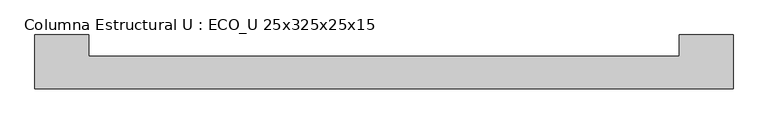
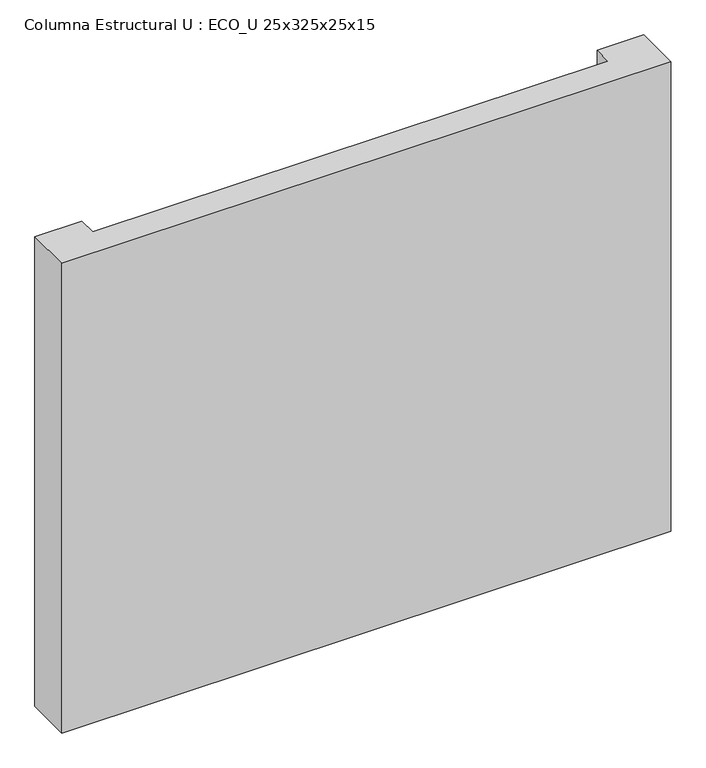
"""IFC4 building model written with IfcOpenShell, lengths in millimetres: column geometry, Columna Estructural U : ECO_U 25x325x25x15."""

from ifc_helpers import new_model, si_unit, frame, origin, place, context, project, spatial, polyline, outline, extrude, source, transform, mapped, element, save


def columna_estructural_u_eco_u_25x325x25x15_0f70cbe8(model_context):
    return source(origin(), model_context, "Body", "SweptSolid", [
        extrude(outline(polyline([(1375.0, 75.0), (1375.0, 175.0), (1625.0, 175.0), (1625.0, -75.0), (-1625.0, -75.0), (-1625.0, 175.0), (-1375.0, 175.0), (-1375.0, 75.0), (1375.0, 75.0)])), frame((0.0, 0.0, 5400.0), z_axis=(0.0, 0.0, 1.0), x_axis=(1.0, 0.0, 0.0)), (0.0, 0.0, 1.0), 2650.0),
    ])


if __name__ == "__main__":
    model = new_model("IFC4")
    model_context = context("Model", 3, world=origin())
    ifc_project = project(units=[si_unit("LENGTHUNIT", "METRE", prefix="MILLI")], contexts=[model_context])
    site = spatial("IfcSite", under=ifc_project)
    building = spatial("IfcBuilding", under=site)
    placement = place(None, origin())
    columna_estructural_u_eco_u_25x325x25x15_shape = columna_estructural_u_eco_u_25x325x25x15_0f70cbe8(model_context)
    element("IfcColumn", 1, ObjectType="Columna Estructural U : ECO_U 25x325x25x15", at=placement, inside=building, context=model_context, shape_type="MappedRepresentation", body=[
        mapped(columna_estructural_u_eco_u_25x325x25x15_shape, transform((0.0, 0.0, 0.0), x_axis=(1.0, 0.0, 0.0), y_axis=(0.0, 1.0, 0.0), z_axis=(0.0, 0.0, 1.0))),
    ])
    save(model, "model.ifc")
